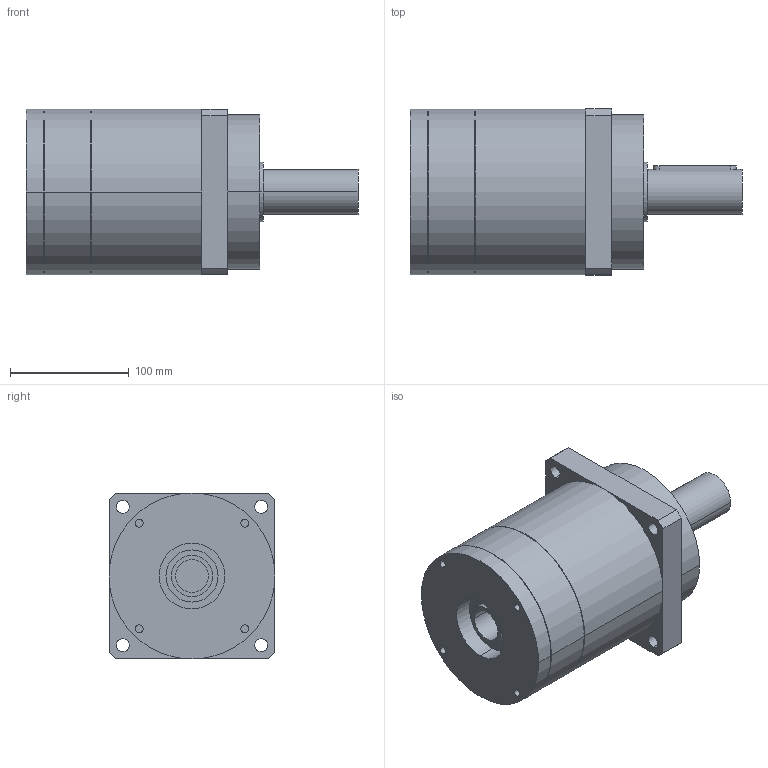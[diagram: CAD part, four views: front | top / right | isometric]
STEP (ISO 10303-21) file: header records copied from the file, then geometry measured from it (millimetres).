
FILE_DESCRIPTION(('CoCreate Modeling STEP Export'),'2;1');
FILE_NAME('GPR150_ig-3-4-5-7_38_B5_28_P01.stp','2014-08-19T16:42:37',(''),(''),'CoCreate Modeling STEP processor for AP214 (Solid Model)','CoCreate Modeling 16.00C 25-Feb-2009 (C) Parametric Technology GmbH','');
FILE_SCHEMA(('AUTOMOTIVE_DESIGN { 1 0 10303 214 1 1 1 1 }'));
Length unit declared in the file: millimetre
Products named in the file (2): GPR150_ig-3-4-5-7_38_B5_28_P01
Assembly tree (1 placements, depth 2):
  GPR150_ig-3-4-5-7_38_B5_28_P01
    GPR150_ig-3-4-5-7_38_B5_28_P01
Bounding box: 280 x 140 x 140 mm (x, y, z)
Volume: 3075851.1 mm3; surface area: 153137.9 mm2
Topology: 1 solids, 1 shells, 88 faces, 222 edges, 152 vertices
Faces by surface type: cylinder 52, plane 30, cone 6
Entity records: 2317 total; most frequent: ORIENTED_EDGE 440, CARTESIAN_POINT 424, DIRECTION 320, EDGE_CURVE 220, VERTEX_POINT 152, AXIS2_PLACEMENT_3D 120, EDGE_LOOP 114, FACE_OUTER_BOUND 88
